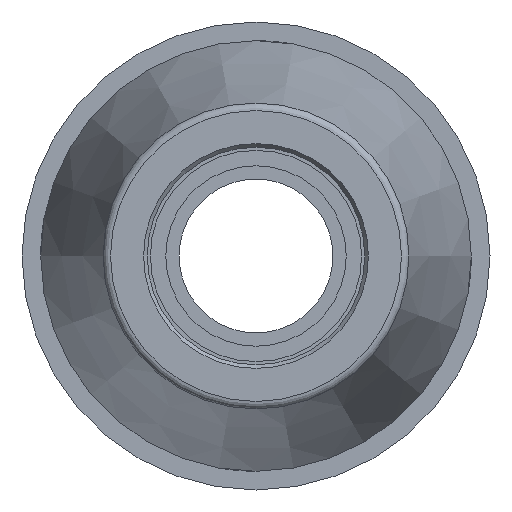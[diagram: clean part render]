
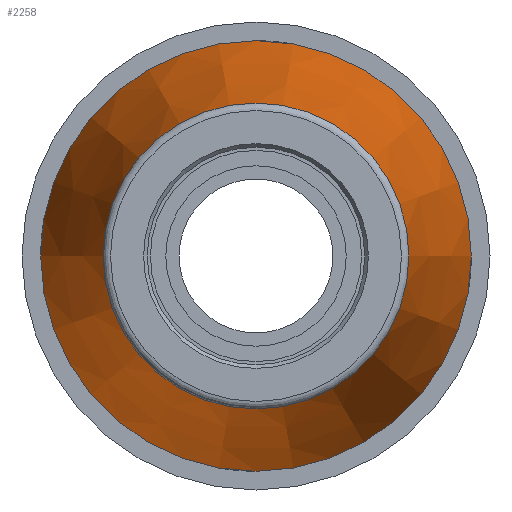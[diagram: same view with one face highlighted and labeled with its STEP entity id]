
A CAD part, left-side view. The second image highlights one B-rep face of the part: STEP entity #2258.
In plain terms, the highlighted conical face has half-angle 13 degrees and reference radius 29.789 mm.
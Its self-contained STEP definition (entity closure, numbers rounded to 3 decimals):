
#410=CONICAL_SURFACE('',#2497,29.789,13.);
#459=FACE_BOUND('',#717,.T.);
#575=FACE_OUTER_BOUND('',#716,.T.);
#716=EDGE_LOOP('',(#1901));
#717=EDGE_LOOP('',(#1902));
#862=CIRCLE('',#2496,24.841);
#863=CIRCLE('',#2498,34.96);
#1060=VERTEX_POINT('',#4423);
#1061=VERTEX_POINT('',#4426);
#1354=EDGE_CURVE('',#1060,#1060,#862,.T.);
#1355=EDGE_CURVE('',#1061,#1061,#863,.T.);
#1901=ORIENTED_EDGE('',*,*,#1355,.F.);
#1902=ORIENTED_EDGE('',*,*,#1354,.F.);
#2258=ADVANCED_FACE('',(#575,#459),#410,.T.);
#2496=AXIS2_PLACEMENT_3D('',#4424,#3067,#3068);
#2497=AXIS2_PLACEMENT_3D('',#4425,#3069,#3070);
#2498=AXIS2_PLACEMENT_3D('',#4427,#3071,#3072);
#3067=DIRECTION('center_axis',(-1.,0.,0.));
#3068=DIRECTION('ref_axis',(0.,-1.,0.));
#3069=DIRECTION('center_axis',(1.,0.,0.));
#3070=DIRECTION('ref_axis',(0.,1.,0.));
#3071=DIRECTION('center_axis',(1.,0.,0.));
#3072=DIRECTION('ref_axis',(0.,0.,-1.));
#4423=CARTESIAN_POINT('',(-78.031,24.841,0.));
#4424=CARTESIAN_POINT('Origin',(-78.031,0.,0.));
#4425=CARTESIAN_POINT('Origin',(-56.6,0.,0.));
#4426=CARTESIAN_POINT('',(-34.2,34.96,0.));
#4427=CARTESIAN_POINT('Origin',(-34.2,0.,0.));
